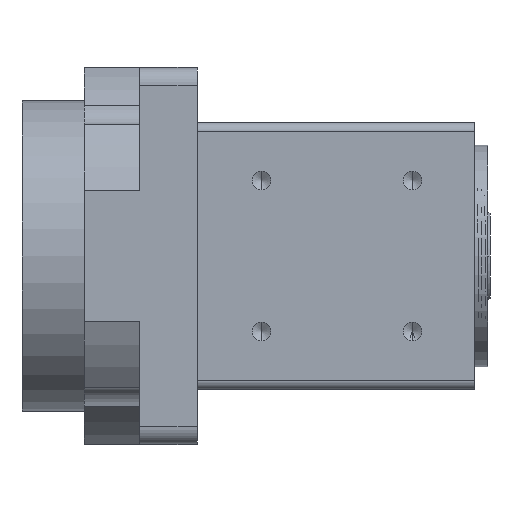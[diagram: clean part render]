
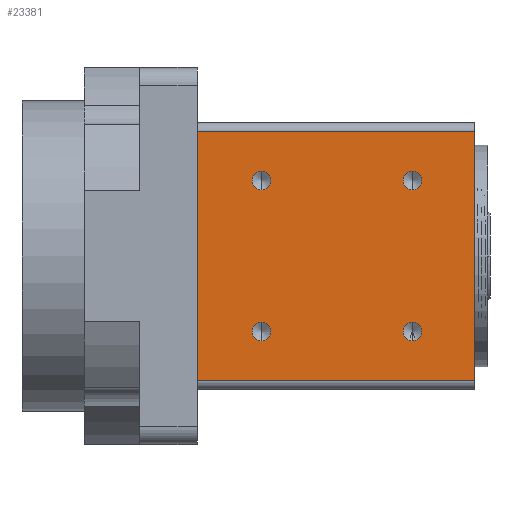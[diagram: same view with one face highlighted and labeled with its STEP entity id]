
A CAD part, left-side view. The second image highlights one B-rep face of the part: STEP entity #23381.
In plain terms, the highlighted planar face has unit normal (-1, 0, 0) as drawn and (0, 1, 0) by its records, which use the part's own axes.
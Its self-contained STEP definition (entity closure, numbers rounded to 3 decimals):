
#202 = DIRECTION ( 'NONE',  ( 0., 0., 1. ) ) ;
#352 = CARTESIAN_POINT ( 'NONE',  ( 28., 32., 68.5 ) ) ;
#995 = CARTESIAN_POINT ( 'NONE',  ( -28., 32., 65.5 ) ) ;
#1634 = CARTESIAN_POINT ( 'NONE',  ( 17., 32., 51. ) ) ;
#1696 = CIRCLE ( 'NONE', #17537, 2.1 ) ;
#2355 = FACE_BOUND ( 'NONE', #28162, .T. ) ;
#2451 = VERTEX_POINT ( 'NONE', #6013 ) ;
#2822 = CARTESIAN_POINT ( 'NONE',  ( -28., 32., 68.5 ) ) ;
#2837 = CARTESIAN_POINT ( 'NONE',  ( -17., 32., 51. ) ) ;
#3450 = CIRCLE ( 'NONE', #9714, 2.1 ) ;
#4068 = EDGE_CURVE ( 'NONE', #4873, #66107, #19802, .T. ) ;
#4411 = EDGE_CURVE ( 'NONE', #11627, #2451, #36522, .T. ) ;
#4873 = VERTEX_POINT ( 'NONE', #47082 ) ;
#5081 = ORIENTED_EDGE ( 'NONE', *, *, #6903, .F. ) ;
#5280 = DIRECTION ( 'NONE',  ( 0., 1., 0. ) ) ;
#6013 = CARTESIAN_POINT ( 'NONE',  ( -17., 32., 14.9 ) ) ;
#6903 = EDGE_CURVE ( 'NONE', #22509, #30892, #10960, .T. ) ;
#7045 = DIRECTION ( 'NONE',  ( 0., 0., 1. ) ) ;
#8271 = DIRECTION ( 'NONE',  ( 0., 0., 1. ) ) ;
#9714 = AXIS2_PLACEMENT_3D ( 'NONE', #37498, #5280, #42849 ) ;
#10715 = VERTEX_POINT ( 'NONE', #995 ) ;
#10960 = CIRCLE ( 'NONE', #53028, 2.1 ) ;
#11224 = AXIS2_PLACEMENT_3D ( 'NONE', #59015, #58928, #58876 ) ;
#11627 = VERTEX_POINT ( 'NONE', #16825 ) ;
#13380 = ORIENTED_EDGE ( 'NONE', *, *, #36697, .F. ) ;
#13707 = EDGE_LOOP ( 'NONE', ( #17452, #31090 ) ) ;
#14464 = CARTESIAN_POINT ( 'NONE',  ( 28., 32., 65.5 ) ) ;
#14637 = AXIS2_PLACEMENT_3D ( 'NONE', #2837, #40453, #8271 ) ;
#15068 = FACE_BOUND ( 'NONE', #46717, .T. ) ;
#15409 = CARTESIAN_POINT ( 'NONE',  ( 17., 32., 17. ) ) ;
#15934 = VERTEX_POINT ( 'NONE', #14464 ) ;
#15974 = DIRECTION ( 'NONE',  ( -1., 0., 0. ) ) ;
#16527 = CARTESIAN_POINT ( 'NONE',  ( -17., 32., 53.1 ) ) ;
#16825 = CARTESIAN_POINT ( 'NONE',  ( -17., 32., 19.1 ) ) ;
#17154 = LINE ( 'NONE', #2822, #18817 ) ;
#17401 = EDGE_CURVE ( 'NONE', #2451, #11627, #40404, .T. ) ;
#17452 = ORIENTED_EDGE ( 'NONE', *, *, #56103, .F. ) ;
#17472 = DIRECTION ( 'NONE',  ( 0., 0., 1. ) ) ;
#17535 = DIRECTION ( 'NONE',  ( 0., 1., 0. ) ) ;
#17537 = AXIS2_PLACEMENT_3D ( 'NONE', #1634, #39266, #7045 ) ;
#17709 = CARTESIAN_POINT ( 'NONE',  ( -17., 32., 17. ) ) ;
#18244 = CARTESIAN_POINT ( 'NONE',  ( 17., 32., 48.9 ) ) ;
#18817 = VECTOR ( 'NONE', #45580, 1000. ) ;
#18917 = AXIS2_PLACEMENT_3D ( 'NONE', #53220, #21255, #58642 ) ;
#19802 = LINE ( 'NONE', #36471, #62427 ) ;
#19863 = ORIENTED_EDGE ( 'NONE', *, *, #4411, .F. ) ;
#20253 = CARTESIAN_POINT ( 'NONE',  ( 17., 32., 19.1 ) ) ;
#20855 = DIRECTION ( 'NONE',  ( 0., 0., 1. ) ) ;
#21255 = DIRECTION ( 'NONE',  ( 0., 1., 0. ) ) ;
#21661 = CIRCLE ( 'NONE', #14637, 2.1 ) ;
#21773 = VECTOR ( 'NONE', #202, 1000. ) ;
#22509 = VERTEX_POINT ( 'NONE', #18244 ) ;
#23381 = ADVANCED_FACE ( 'NONE', ( #29437, #57761, #2355, #43527, #15068 ), #42887, .F. ) ;
#24030 = EDGE_CURVE ( 'NONE', #66107, #15934, #34292, .T. ) ;
#25161 = VERTEX_POINT ( 'NONE', #42839 ) ;
#26947 = CARTESIAN_POINT ( 'NONE',  ( 17., 32., 53.1 ) ) ;
#27462 = AXIS2_PLACEMENT_3D ( 'NONE', #15409, #52845, #20855 ) ;
#28162 = EDGE_LOOP ( 'NONE', ( #19863, #45249 ) ) ;
#29079 = ORIENTED_EDGE ( 'NONE', *, *, #45483, .F. ) ;
#29437 = FACE_OUTER_BOUND ( 'NONE', #39483, .T. ) ;
#30215 = AXIS2_PLACEMENT_3D ( 'NONE', #17709, #17535, #17472 ) ;
#30892 = VERTEX_POINT ( 'NONE', #26947 ) ;
#31090 = ORIENTED_EDGE ( 'NONE', *, *, #39719, .F. ) ;
#31175 = VERTEX_POINT ( 'NONE', #20253 ) ;
#31787 = AXIS2_PLACEMENT_3D ( 'NONE', #43101, #43345, #42749 ) ;
#33735 = ORIENTED_EDGE ( 'NONE', *, *, #24030, .F. ) ;
#34292 = LINE ( 'NONE', #352, #21773 ) ;
#35547 = EDGE_CURVE ( 'NONE', #31175, #25161, #3450, .T. ) ;
#36471 = CARTESIAN_POINT ( 'NONE',  ( 0., 32., 3. ) ) ;
#36522 = CIRCLE ( 'NONE', #30215, 2.1 ) ;
#36697 = EDGE_CURVE ( 'NONE', #25161, #31175, #59610, .T. ) ;
#37498 = CARTESIAN_POINT ( 'NONE',  ( 17., 32., 17. ) ) ;
#38374 = VECTOR ( 'NONE', #15974, 1000. ) ;
#39266 = DIRECTION ( 'NONE',  ( 0., 1., 0. ) ) ;
#39483 = EDGE_LOOP ( 'NONE', ( #56928, #29079, #33735, #55445 ) ) ;
#39719 = EDGE_CURVE ( 'NONE', #67901, #54880, #58059, .T. ) ;
#40065 = DIRECTION ( 'NONE',  ( 0., 0., 1. ) ) ;
#40224 = CARTESIAN_POINT ( 'NONE',  ( -17., 32., 48.9 ) ) ;
#40404 = CIRCLE ( 'NONE', #11224, 2.1 ) ;
#40453 = DIRECTION ( 'NONE',  ( 0., 1., 0. ) ) ;
#41155 = DIRECTION ( 'NONE',  ( 1., 0., 0. ) ) ;
#41974 = DIRECTION ( 'NONE',  ( 0., 1., 0. ) ) ;
#42749 = DIRECTION ( 'NONE',  ( 0., 0., -1. ) ) ;
#42839 = CARTESIAN_POINT ( 'NONE',  ( 17., 32., 14.9 ) ) ;
#42849 = DIRECTION ( 'NONE',  ( 0., 0., 1. ) ) ;
#42887 = PLANE ( 'NONE',  #31787 ) ;
#43101 = CARTESIAN_POINT ( 'NONE',  ( -30., 32., 68.5 ) ) ;
#43121 = CARTESIAN_POINT ( 'NONE',  ( 17., 32., 51. ) ) ;
#43345 = DIRECTION ( 'NONE',  ( 0., -1., 0. ) ) ;
#43527 = FACE_BOUND ( 'NONE', #51722, .T. ) ;
#45249 = ORIENTED_EDGE ( 'NONE', *, *, #17401, .F. ) ;
#45483 = EDGE_CURVE ( 'NONE', #15934, #10715, #66718, .T. ) ;
#45580 = DIRECTION ( 'NONE',  ( 0., 0., -1. ) ) ;
#46717 = EDGE_LOOP ( 'NONE', ( #67659, #13380 ) ) ;
#47082 = CARTESIAN_POINT ( 'NONE',  ( -28., 32., 3. ) ) ;
#49945 = EDGE_CURVE ( 'NONE', #10715, #4873, #17154, .T. ) ;
#51722 = EDGE_LOOP ( 'NONE', ( #68754, #5081 ) ) ;
#52845 = DIRECTION ( 'NONE',  ( 0., 1., 0. ) ) ;
#53028 = AXIS2_PLACEMENT_3D ( 'NONE', #43121, #41974, #40065 ) ;
#53220 = CARTESIAN_POINT ( 'NONE',  ( -17., 32., 51. ) ) ;
#53372 = CARTESIAN_POINT ( 'NONE',  ( 0., 32., 65.5 ) ) ;
#54880 = VERTEX_POINT ( 'NONE', #16527 ) ;
#55445 = ORIENTED_EDGE ( 'NONE', *, *, #4068, .F. ) ;
#56103 = EDGE_CURVE ( 'NONE', #54880, #67901, #21661, .T. ) ;
#56928 = ORIENTED_EDGE ( 'NONE', *, *, #49945, .F. ) ;
#57761 = FACE_BOUND ( 'NONE', #13707, .T. ) ;
#58059 = CIRCLE ( 'NONE', #18917, 2.1 ) ;
#58642 = DIRECTION ( 'NONE',  ( 0., 0., 1. ) ) ;
#58876 = DIRECTION ( 'NONE',  ( 0., 0., 1. ) ) ;
#58928 = DIRECTION ( 'NONE',  ( 0., 1., 0. ) ) ;
#59015 = CARTESIAN_POINT ( 'NONE',  ( -17., 32., 17. ) ) ;
#59610 = CIRCLE ( 'NONE', #27462, 2.1 ) ;
#61939 = EDGE_CURVE ( 'NONE', #30892, #22509, #1696, .T. ) ;
#62427 = VECTOR ( 'NONE', #41155, 1000. ) ;
#66107 = VERTEX_POINT ( 'NONE', #68588 ) ;
#66718 = LINE ( 'NONE', #53372, #38374 ) ;
#67659 = ORIENTED_EDGE ( 'NONE', *, *, #35547, .F. ) ;
#67901 = VERTEX_POINT ( 'NONE', #40224 ) ;
#68588 = CARTESIAN_POINT ( 'NONE',  ( 28., 32., 3. ) ) ;
#68754 = ORIENTED_EDGE ( 'NONE', *, *, #61939, .F. ) ;
